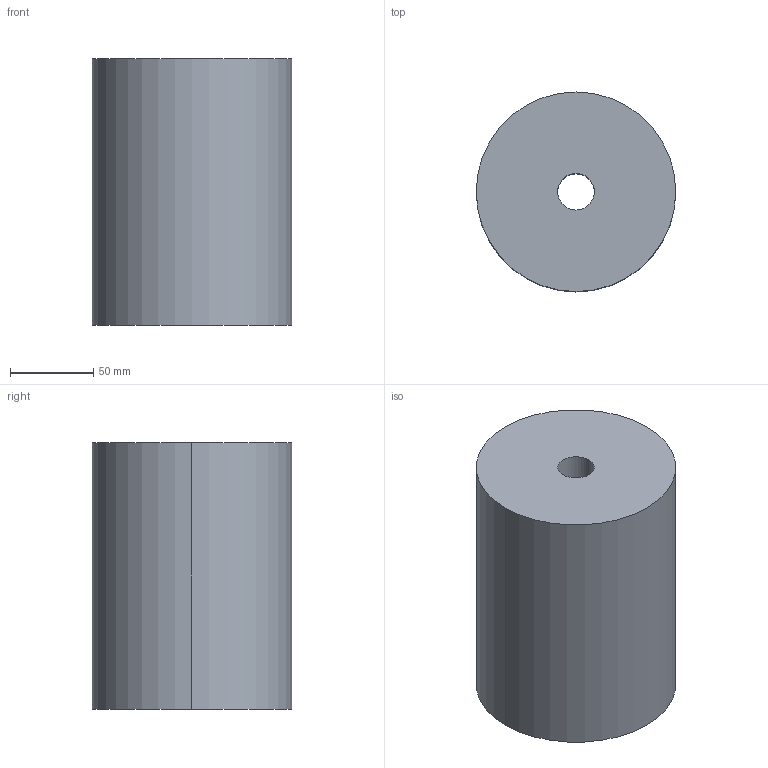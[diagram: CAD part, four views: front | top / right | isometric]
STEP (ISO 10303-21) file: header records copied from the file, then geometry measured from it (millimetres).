
FILE_DESCRIPTION(/* description */ (''),/* implementation_level */ '2;1');
FILE_NAME(/* name */ '3d_pa120-160_04905_r00.stp',/* time_stamp */ '2011-01-10T14:11:58+09:00',/* author */ ('MISUMI'),/* organization */ (''),/* preprocessor_version */ 'ST-DEVELOPER v11',/* originating_system */ 'UGS - NX 5.0',/* authorisation */ '');
FILE_SCHEMA (('CONFIG_CONTROL_DESIGN'));
Length unit declared in the file: millimetre
Products named in the file (1): 3d_pa120-160_04905_r00
Bounding box: 120 x 120 x 160 mm (x, y, z)
Volume: 1748736.1 mm3; surface area: 93236.2 mm2
Topology: 1 solids, 1 shells, 6 faces, 12 edges, 8 vertices
Faces by surface type: cylinder 4, plane 2
Entity records: 254 total; most frequent: DIRECTION 34, CARTESIAN_POINT 27, ORIENTED_EDGE 24, AXIS2_PLACEMENT_3D 15, EDGE_CURVE 12, EDGE_LOOP 8, VERTEX_POINT 8, CIRCLE 8
